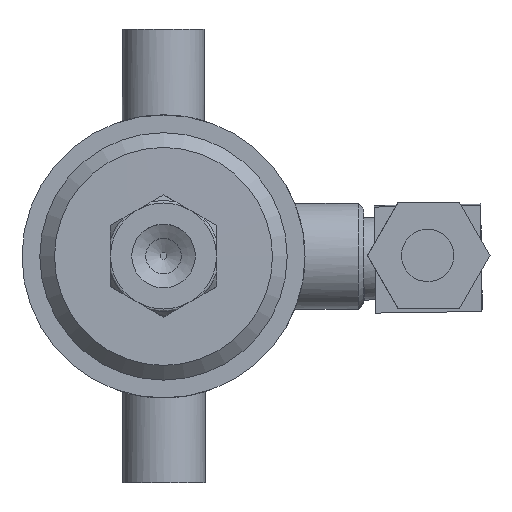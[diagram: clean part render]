
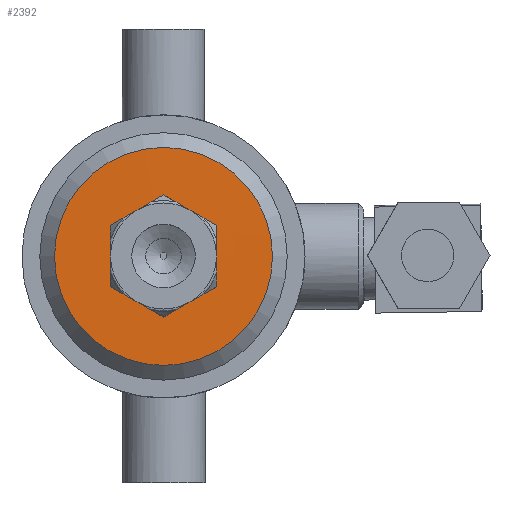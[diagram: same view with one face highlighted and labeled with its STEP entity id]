
A CAD part, left-side view. The second image highlights one B-rep face of the part: STEP entity #2392.
In plain terms, the highlighted conical face has half-angle 89.797 degrees and reference radius 9.647 mm.
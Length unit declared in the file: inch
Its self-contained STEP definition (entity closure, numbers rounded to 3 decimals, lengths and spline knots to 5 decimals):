
#89=CONICAL_SURFACE('',#2650,0.37981,1.567);
#287=FACE_BOUND('',#631,.T.);
#423=FACE_OUTER_BOUND('',#630,.T.);
#630=EDGE_LOOP('',(#1953));
#631=EDGE_LOOP('',(#1954));
#1021=CIRCLE('',#2648,0.182);
#1023=CIRCLE('',#2651,0.57763);
#1206=VERTEX_POINT('',#4226);
#1208=VERTEX_POINT('',#4231);
#1484=EDGE_CURVE('',#1206,#1206,#1021,.T.);
#1486=EDGE_CURVE('',#1208,#1208,#1023,.T.);
#1953=ORIENTED_EDGE('',*,*,#1486,.F.);
#1954=ORIENTED_EDGE('',*,*,#1484,.T.);
#2392=ADVANCED_FACE('',(#423,#287),#89,.T.);
#2648=AXIS2_PLACEMENT_3D('',#4227,#3157,#3158);
#2650=AXIS2_PLACEMENT_3D('',#4230,#3161,#3162);
#2651=AXIS2_PLACEMENT_3D('',#4232,#3163,#3164);
#3157=DIRECTION('center_axis',(1.,0.,0.));
#3158=DIRECTION('ref_axis',(0.,0.,
-1.));
#3161=DIRECTION('center_axis',(1.,0.,0.));
#3162=DIRECTION('ref_axis',(0.,1.,0.));
#3163=DIRECTION('center_axis',(1.,0.,0.));
#3164=DIRECTION('ref_axis',(0.,0.,
-1.));
#4226=CARTESIAN_POINT('',(25.77966,1.39897,0.30699));
#4227=CARTESIAN_POINT('Origin',(25.77966,1.21697,0.30699));
#4230=CARTESIAN_POINT('Origin',(25.78036,1.21697,0.30699));
#4231=CARTESIAN_POINT('',(25.78105,1.7946,0.30699));
#4232=CARTESIAN_POINT('Origin',(25.78105,1.21697,0.30699));
